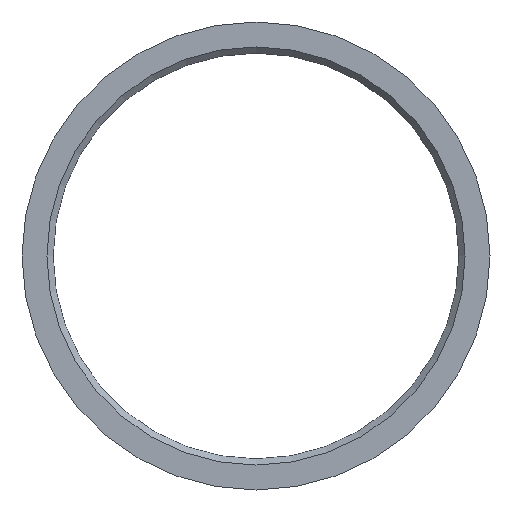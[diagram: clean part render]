
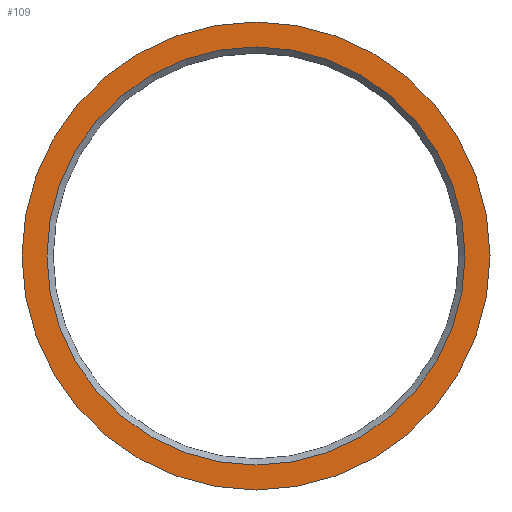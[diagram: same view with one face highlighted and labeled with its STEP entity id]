
A CAD part, front view. The second image highlights one B-rep face of the part: STEP entity #109.
In plain terms, the highlighted planar face has unit normal (0, -1, 0).
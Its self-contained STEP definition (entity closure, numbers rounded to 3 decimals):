
#16=FACE_BOUND('',#34,.T.);
#18=PLANE('',#144);
#25=FACE_OUTER_BOUND('',#33,.T.);
#33=EDGE_LOOP('',(#90));
#34=EDGE_LOOP('',(#91));
#51=CIRCLE('',#143,33.55);
#52=CIRCLE('',#145,37.55);
#59=VERTEX_POINT('',#202);
#60=VERTEX_POINT('',#206);
#70=EDGE_CURVE('',#59,#59,#51,.T.);
#71=EDGE_CURVE('',#60,#60,#52,.T.);
#90=ORIENTED_EDGE('',*,*,#71,.F.);
#91=ORIENTED_EDGE('',*,*,#70,.F.);
#109=ADVANCED_FACE('',(#25,#16),#18,.F.);
#143=AXIS2_PLACEMENT_3D('',#204,#171,#172);
#144=AXIS2_PLACEMENT_3D('',#205,#173,#174);
#145=AXIS2_PLACEMENT_3D('',#207,#175,#176);
#171=DIRECTION('center_axis',(0.,-1.,0.));
#172=DIRECTION('ref_axis',(1.,0.,0.));
#173=DIRECTION('center_axis',(0.,1.,0.));
#174=DIRECTION('ref_axis',(0.,0.,1.));
#175=DIRECTION('center_axis',(0.,1.,0.));
#176=DIRECTION('ref_axis',(-1.,0.,0.));
#202=CARTESIAN_POINT('',(-33.55,0.,0.));
#204=CARTESIAN_POINT('Origin',(0.,0.,0.));
#205=CARTESIAN_POINT('Origin',(0.,0.,0.));
#206=CARTESIAN_POINT('',(-37.55,0.,0.));
#207=CARTESIAN_POINT('Origin',(0.,0.,0.));
